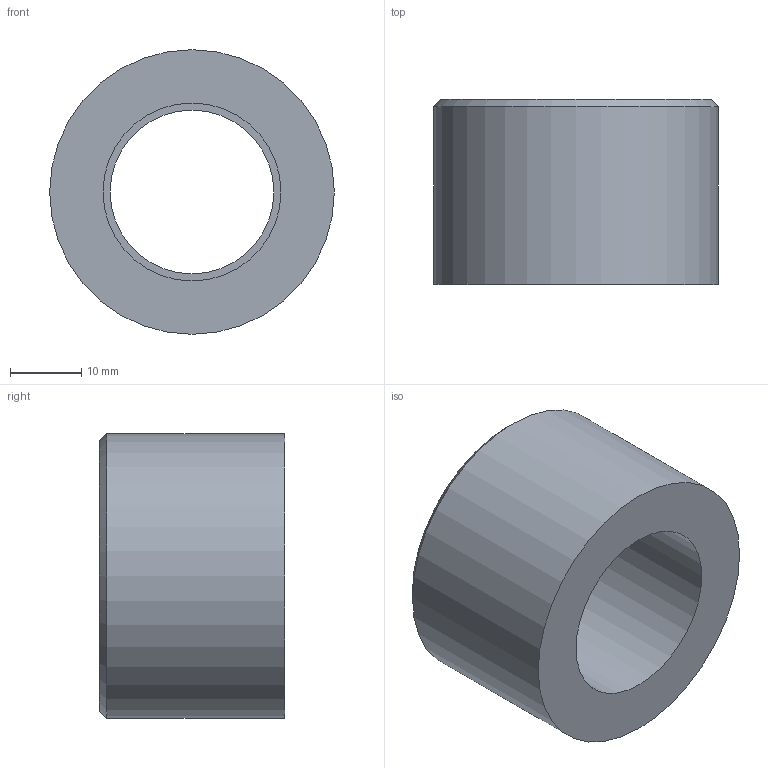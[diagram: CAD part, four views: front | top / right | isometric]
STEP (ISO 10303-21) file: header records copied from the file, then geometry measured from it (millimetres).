
FILE_DESCRIPTION(/* description */ ('PVC riduzione corta incollaggio metrica'),/* implementation_level */ '2;1');
FILE_NAME(/* name */ 'C:\Users\POLYPIPE\Desktop\DATASET INVENTOR\LIBRERIA EFFAST\RACCORDI 3DxWEB\RDR\3D_RDRRCD\3D_RDRRCD040C.stp',/* time_stamp */ '2018-01-19T15:29:45+01:00',/* author */ ('POLYPIPE'),/* organization */ ('Polypipe Italia s.r.l.'),/* preprocessor_version */ 'ST-DEVELOPER v16.1',/* originating_system */ 'Autodesk Inventor 2016',/* authorisation */ '');
FILE_SCHEMA (('CONFIG_CONTROL_DESIGN'));
Length unit declared in the file: millimetre
Products named in the file (1): 3D_RDRRCD
Bounding box: 40 x 26 x 40 mm (x, y, z)
Volume: 20375.8 mm3; surface area: 6872.7 mm2
Topology: 1 solids, 1 shells, 7 faces, 11 edges, 7 vertices
Faces by surface type: plane 3, cylinder 3, cone 1
Full cylindrical faces by diameter (mm): 23 x1, 25 x1, 40 x1
Entity records: 172 total; most frequent: DIRECTION 30, CARTESIAN_POINT 22, AXIS2_PLACEMENT_3D 15, EDGE_LOOP 14, ORIENTED_EDGE 14, FACE_BOUND 7, FACE_OUTER_BOUND 7, CIRCLE 7
